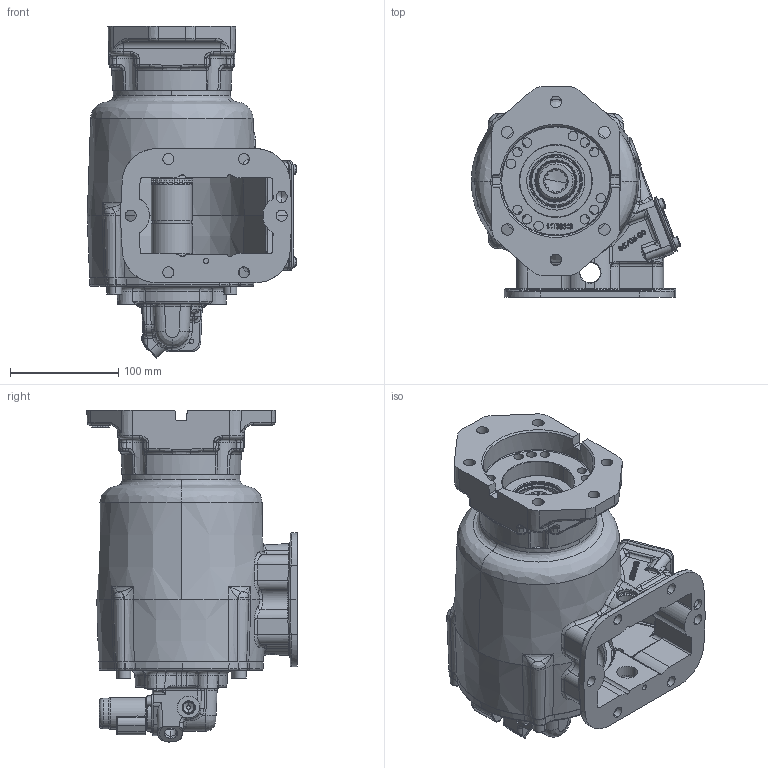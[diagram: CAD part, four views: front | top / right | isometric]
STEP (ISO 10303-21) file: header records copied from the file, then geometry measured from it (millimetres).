
FILE_DESCRIPTION (( 'STEP AP203' ), '1' );
FILE_NAME ('CS6B-XXXXX-S3ZX.STEP', '2023-05-24T13:43:41', ( '' ), ( '' ), 'SwSTEP 2.0', 'SolidWorks 2021', '' );
FILE_SCHEMA (( 'CONFIG_CONTROL_DESIGN' ));
Length unit declared in the file: inch
Products named in the file (18): 14ta4818_Config1; 25T21684; 16T41119; 11T36124-1; 12T36471; 15T41597; 19T41118; 24T36894; 11T37795; 35T40860-2; 01T37072-01; 14T38343; CS6B-XXXXX-S3ZX; 19T35237; 19T40859; 19T36174; 12T34003; CS6_8 OUTPUT SHAFTS_06T37090
Assembly tree (29 placements, depth 3):
  CS6B-XXXXX-S3ZX
    01T37072-01
    16T41119
    12T34003
    25T21684  x2
    19T41118  x4
    19T36174  x4
    CS6_8 OUTPUT SHAFTS_06T37090
    11T36124-1
    24T36894
    12T36471  x2
    15T41597
    35T40860-2
    19T35237  x4
    19T40859  x2
    14ta4818_Config1
      14T38343
      11T37795
Bounding box: 193.76 x 194.5 x 307.11 mm (x, y, z)
Volume: 1702227.9 mm3; surface area: 479162.2 mm2
Topology: 29 solids, 30 shells, 3452 faces, 8663 edges, 5350 vertices
Faces by surface type: bspline 1110, plane 921, cylinder 800, cone 366, torus 220, sphere 35
Entity records: 191466 total; most frequent: CARTESIAN_POINT 120680, ORIENTED_EDGE 16032, DIRECTION 11394, EDGE_CURVE 8016, VERTEX_POINT 5015, AXIS2_PLACEMENT_3D 4268, EDGE_LOOP 3481, ADVANCED_FACE 3195
